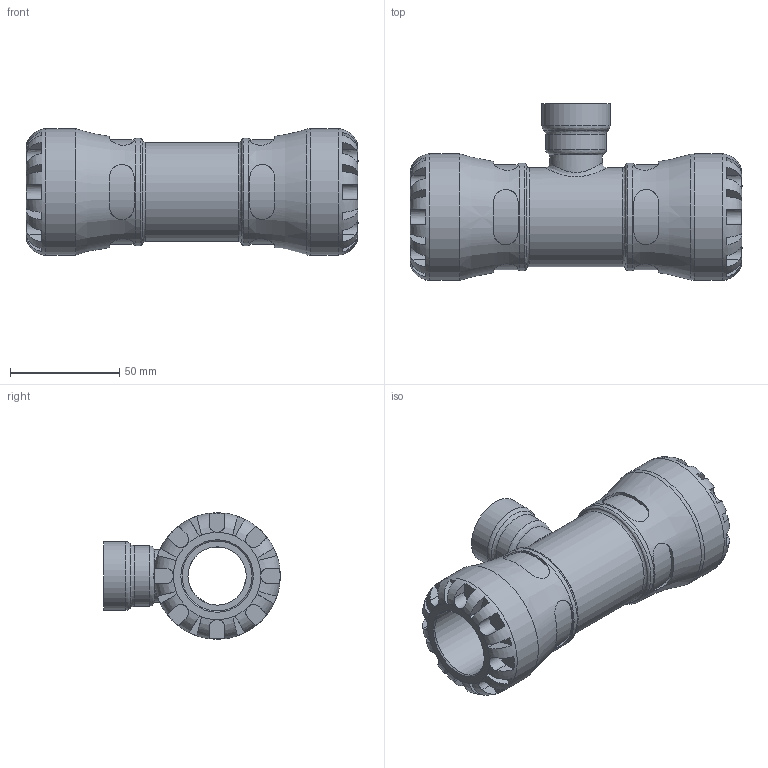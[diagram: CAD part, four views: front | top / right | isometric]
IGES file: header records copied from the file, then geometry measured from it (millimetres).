
Global section: file name: 101400032007_191400032007.ipt; native system: Autodesk Inventor 2015; preprocessor: unknown; author: KIM; date: 20170130.090642; units: millimetre
Bounding box: 152 x 81 x 58 mm (x, y, z)
Volume: 200618.1 mm3; surface area: 51159.4 mm2
Topology: 1 solids, 1 shells, 202 faces, 527 edges, 337 vertices
Faces by surface type: plane 118, revolution 51, cylinder 32, bspline 1
Full cylindrical faces by diameter (mm): 24.117 x1, 27.735 x1, 31.352 x1, 45.24 x1, 49.3 x2, 58 x2
